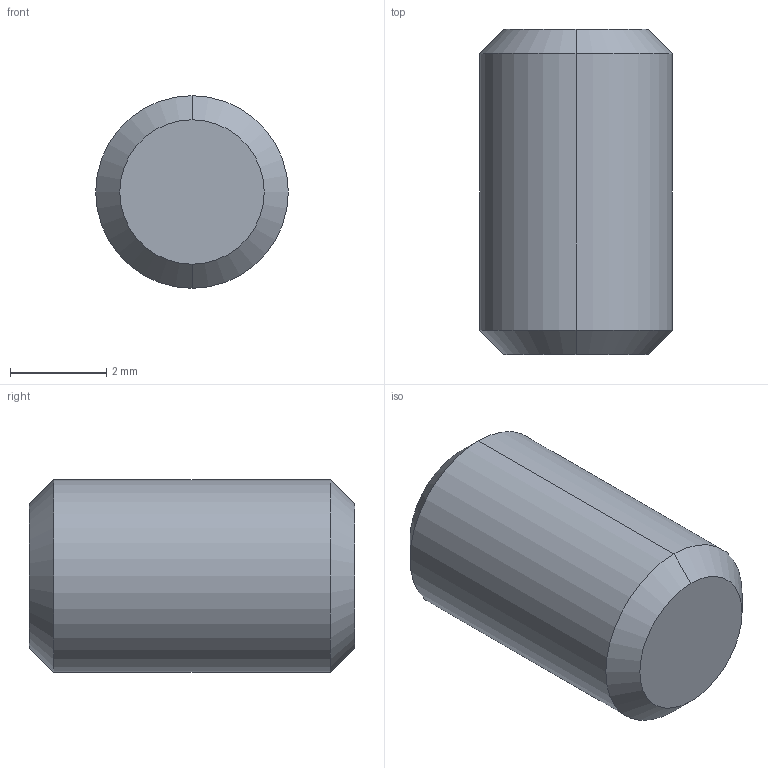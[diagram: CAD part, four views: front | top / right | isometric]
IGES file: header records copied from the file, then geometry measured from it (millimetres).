
Start section: 3D InterOp IGES (v. 2019 1.0.2), Spatial Corp. Copyright (c) 1999-2017.
Global section: file name: SS SDP4.igs; native system: Spatial Corp.; preprocessor: 3D InterOp GENERIC/IGES 3.0; author: Noname; organization: Noname; date: 20220628.112212; units: millimetre
Bounding box: 4 x 6.75 x 4 mm (x, y, z)
Surface area: 101.9 mm2 (no closed solid volume)
Topology: 0 solids, 0 shells, 8 faces, 28 edges, 28 vertices
Faces by surface type: revolution 6, extrusion 2
